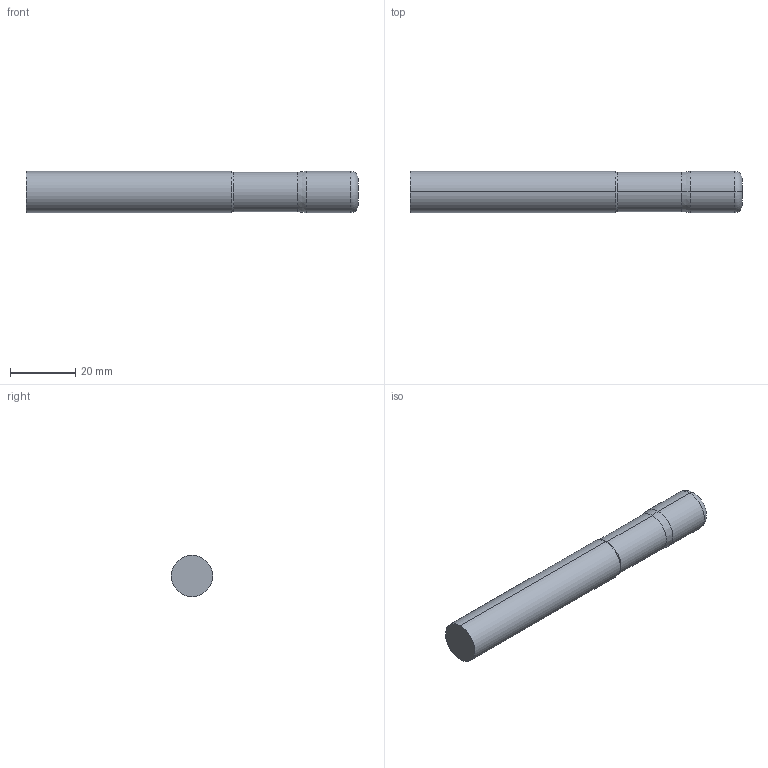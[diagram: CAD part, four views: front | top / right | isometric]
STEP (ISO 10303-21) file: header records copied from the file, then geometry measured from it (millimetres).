
FILE_DESCRIPTION (( 'STEP AP214' ), '1' );
FILE_NAME ('SSIRN50500-090.STEP', '2025-05-27T20:40:47', ( '' ), ( '' ), 'SwSTEP 2.0', 'SolidWorks 2023', '' );
FILE_SCHEMA (( 'AUTOMOTIVE_DESIGN' ));
Length unit declared in the file: inch
Products named in the file (3): SSI5 Imperial LOC ONLY_SSIRN50500-090; SSI5 Imperial SHANK ONLY_SSIRN50500-090; SSIRN50500-090
Assembly tree (2 placements, depth 2):
  SSIRN50500-090
    SSI5 Imperial LOC ONLY_SSIRN50500-090
    SSI5 Imperial SHANK ONLY_SSIRN50500-090
Bounding box: 101.6 x 12.7 x 12.7 mm (x, y, z)
Volume: 12567.1 mm3; surface area: 4480.7 mm2
Topology: 2 solids, 2 shells, 16 faces, 28 edges, 16 vertices
Faces by surface type: cylinder 6, plane 4, cone 4, torus 2
Entity records: 562 total; most frequent: DIRECTION 88, CARTESIAN_POINT 65, ORIENTED_EDGE 56, AXIS2_PLACEMENT_3D 39, EDGE_CURVE 28, CIRCLE 18, VERTEX_POINT 16, FACE_OUTER_BOUND 16
